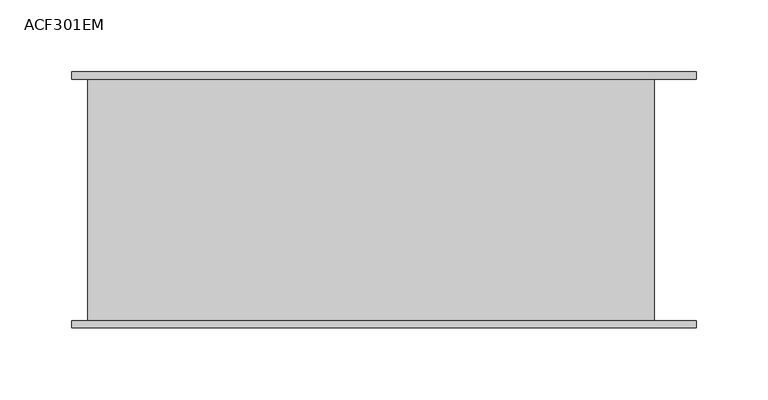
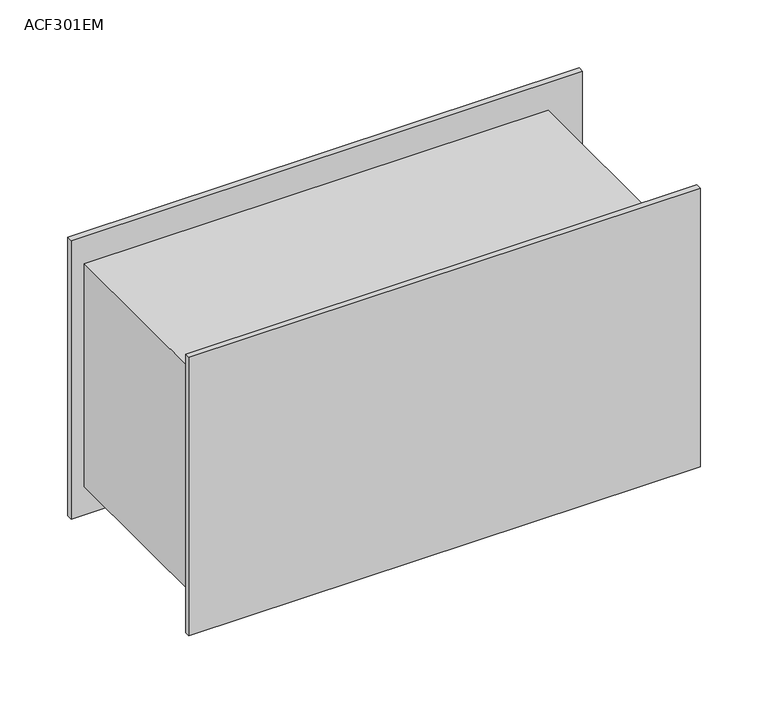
"""IFC4 building model written with IfcOpenShell, lengths in millimetres: proxy geometry, ACF301EM - Wiring_Closet_Ventillation_Unit : ACF301EM."""

import ifcopenshell
import ifcopenshell.guid

model = None  # the IFC model being written
_history = None  # IfcOwnerHistory: only IFC2X3 demands one
_inside = {}  # id of a spatial element -> (the spatial element, [elements in it])
_under = {}  # id of a project, library or spatial element -> (it, [spatial elements below it])
_declared = {}  # id of a project -> (the project, [libraries it declares])
_typed = {}  # id of a type object -> (the type object, [elements of that type])
_made_of = {}  # id of a material, layer set ... -> (it, [elements and type objects made of it])


def new_model(schema):
    """Start an empty IFC model of exactly this schema.

    Asked for "IFC4X3", IfcOpenShell would pick the latest addendum, in which some entities
    have other attributes; the version numbers below select the first issue.
    IFC2X3 requires an IfcOwnerHistory on every rooted entity: one is made here for all.
    """
    global model, _history
    if schema == "IFC4X3":
        model = ifcopenshell.file(schema_version=(4, 3, 0, 0))
    else:
        model = ifcopenshell.file(schema=schema)
    _inside.clear()
    _under.clear()
    _declared.clear()
    _typed.clear()
    _made_of.clear()
    _history = None
    if model.schema == "IFC2X3":
        org = make("IfcOrganization", Name="unknown")
        user = make(
            "IfcPersonAndOrganization",
            ThePerson=make("IfcPerson", FamilyName="unknown"),
            TheOrganization=org,
        )
        app = make(
            "IfcApplication",
            ApplicationDeveloper=org,
            Version="unknown",
            ApplicationFullName="unknown",
            ApplicationIdentifier="unknown",
        )
        _history = make(
            "IfcOwnerHistory",
            OwningUser=user,
            OwningApplication=app,
            ChangeAction="ADDED",
            CreationDate=0,
        )
    return model


def make(cls, **values):
    """One entity of the class cls with the attributes given. An attribute that is None is left unset."""
    return model.create_entity(
        cls, **{name: value for name, value in values.items() if value is not None}
    )


def rooted(cls, **values):
    """An entity with a GlobalId (a new one), such as an element, a storey or a relation."""
    return make(cls, GlobalId=ifcopenshell.guid.new(), OwnerHistory=_history, **values)


def si_unit(unit_type, name, prefix=None):
    """IfcSIUnit, for example si_unit("LENGTHUNIT", "METRE", prefix="MILLI")."""
    return make("IfcSIUnit", UnitType=unit_type, Prefix=prefix, Name=name)


def assignment(units):
    """IfcUnitAssignment: the units of a project."""
    return None if units is None else make("IfcUnitAssignment", Units=units)


def point(xyz):
    """IfcCartesianPoint."""
    return None if xyz is None else make("IfcCartesianPoint", Coordinates=xyz)


def direction(xyz):
    """IfcDirection."""
    return None if xyz is None else make("IfcDirection", DirectionRatios=xyz)


def frame(location, z_axis=None, x_axis=None):
    """IfcAxis2Placement3D, a coordinate frame: its origin and axes. An axis left out is left unset."""
    return make(
        "IfcAxis2Placement3D",
        Location=point(location),
        Axis=direction(z_axis),
        RefDirection=direction(x_axis),
    )


def frame_2d(location, x_axis=None):
    """IfcAxis2Placement2D, a coordinate frame in the plane: its origin and x axis."""
    return make(
        "IfcAxis2Placement2D", Location=point(location), RefDirection=direction(x_axis)
    )


def origin():
    """The frame at (0, 0, 0) with its axes left unset."""
    return frame((0.0, 0.0, 0.0))


def origin_with_axes():
    """The frame at (0, 0, 0) with the z axis (0, 0, 1) and the x axis (1, 0, 0) written out."""
    return frame((0.0, 0.0, 0.0), z_axis=(0.0, 0.0, 1.0), x_axis=(1.0, 0.0, 0.0))


def place(relative_to, where):
    """IfcLocalPlacement: puts the frame where relative to a parent placement (None: the world)."""
    return make(
        "IfcLocalPlacement", PlacementRelTo=relative_to, RelativePlacement=where
    )


def context(
    kind, dimensions, precision=None, world=None, true_north=None, identifier=None
):
    """IfcGeometricRepresentationContext, for example the 3D "Model" context."""
    return make(
        "IfcGeometricRepresentationContext",
        ContextIdentifier=identifier,
        ContextType=kind,
        CoordinateSpaceDimension=dimensions,
        Precision=precision,
        WorldCoordinateSystem=world,
        TrueNorth=true_north,
    )


def project(units=None, contexts=None):
    """IfcProject with its units and contexts."""
    return rooted(
        "IfcProject",
        Name="project",
        RepresentationContexts=contexts,
        UnitsInContext=assignment(units),
    )


def spatial(cls, under=None, at=None, **own):
    """A site, building, storey or space (cls), placed at a placement, below another one or the project."""
    s = rooted(cls, ObjectPlacement=at, **own)
    if under is not None:
        _under.setdefault(under.id(), (under, []))[1].append(s)
    return s


def polyline(points):
    """IfcPolyline through the points."""
    return make("IfcPolyline", Points=[point(p) for p in points])


def circle_curve(where, radius):
    """IfcCircle in the frame where."""
    return make("IfcCircle", Position=where, Radius=radius)


def trimmed(basis, trim1, trim2, sense, master):
    """IfcTrimmedCurve: the piece of a basis curve between two trims."""
    return make(
        "IfcTrimmedCurve",
        BasisCurve=basis,
        Trim1=trim1,
        Trim2=trim2,
        SenseAgreement=sense,
        MasterRepresentation=master,
    )


def segment(curve, same_sense, transition):
    """IfcCompositeCurveSegment."""
    return make(
        "IfcCompositeCurveSegment",
        Transition=transition,
        SameSense=same_sense,
        ParentCurve=curve,
    )


def composite_curve(segments, self_intersect=None):
    """IfcCompositeCurve: segments joined end to end."""
    return make("IfcCompositeCurve", Segments=segments, SelfIntersect=self_intersect)


def outline(outer, holes=None, kind="AREA"):
    """IfcArbitraryClosedProfileDef: a profile drawn as a closed curve; with holes, ...WithVoids."""
    if holes is None:
        return make("IfcArbitraryClosedProfileDef", ProfileType=kind, OuterCurve=outer)
    return make(
        "IfcArbitraryProfileDefWithVoids",
        ProfileType=kind,
        OuterCurve=outer,
        InnerCurves=holes,
    )


def extrude(swept, where, along, depth):
    """IfcExtrudedAreaSolid: the profile swept, set in the frame where, extruded along a direction by depth."""
    return make(
        "IfcExtrudedAreaSolid",
        SweptArea=swept,
        Position=where,
        ExtrudedDirection=direction(along),
        Depth=depth,
    )


def shape(context_of_items, identifier, shape_type, items):
    """IfcShapeRepresentation: the items that make up one representation, for example the "Body"."""
    return make(
        "IfcShapeRepresentation",
        ContextOfItems=context_of_items,
        RepresentationIdentifier=identifier,
        RepresentationType=shape_type,
        Items=items,
    )


def source(mapping_origin, context_of_items, identifier, shape_type, items):
    """IfcRepresentationMap: a shape defined once, which mapped items show again and again."""
    return make(
        "IfcRepresentationMap",
        MappingOrigin=mapping_origin,
        MappedRepresentation=shape(context_of_items, identifier, shape_type, items),
    )


def transform(
    local_origin,
    x_axis=None,
    y_axis=None,
    z_axis=None,
    scale=None,
    scale2=None,
    scale3=None,
    uniform=True,
):
    """IfcCartesianTransformationOperator3D, or its non-uniform kind. x_axis, y_axis, z_axis: its Axis1, 2, 3."""
    if uniform:
        return make(
            "IfcCartesianTransformationOperator3D",
            Axis1=direction(x_axis),
            Axis2=direction(y_axis),
            LocalOrigin=point(local_origin),
            Scale=scale,
            Axis3=direction(z_axis),
        )
    return make(
        "IfcCartesianTransformationOperator3DnonUniform",
        Axis1=direction(x_axis),
        Axis2=direction(y_axis),
        LocalOrigin=point(local_origin),
        Scale=scale,
        Axis3=direction(z_axis),
        Scale2=scale2,
        Scale3=scale3,
    )


def mapped(mapping_source, mapping_target):
    """IfcMappedItem: shows the shape of a source again, moved by a transform."""
    return make(
        "IfcMappedItem", MappingSource=mapping_source, MappingTarget=mapping_target
    )


def made_of(thing, what):
    """Note that an element or type object is made of a material, layer set ...; save() writes the relation."""
    if what is not None:
        _made_of.setdefault(what.id(), (what, []))[1].append(thing)
    return thing


def element(
    cls,
    number,
    at=None,
    inside=None,
    cuts=None,
    type_object=None,
    material=None,
    context=None,
    identifier="Body",
    shape_type=None,
    held_by="IfcProductDefinitionShape",
    body=None,
    shapes=None,
    **own,
):
    """One element of the class cls, such as IfcWall. Its Tag is "e" and its number.

    at: its placement. inside: the storey or other place that contains it. cuts: it is an
    opening in that element (IfcRelVoidsElement). A single representation is given by context,
    identifier, shape_type and body (its items); several are given by shapes. held_by: the class
    of the entity that holds the representations. save() writes the other relations.
    """
    e = rooted(cls, Tag="e%d" % number, ObjectPlacement=at, **own)
    if body is not None:
        shapes = [shape(context, identifier, shape_type, body)]
    if shapes is not None:
        e.Representation = make(held_by, Representations=shapes)
    if inside is not None:
        _inside.setdefault(inside.id(), (inside, []))[1].append(e)
    if cuts is not None:
        rooted(
            "IfcRelVoidsElement", RelatingBuildingElement=cuts, RelatedOpeningElement=e
        )
    if type_object is not None:
        _typed.setdefault(type_object.id(), (type_object, []))[1].append(e)
    return made_of(e, material)


def aggregate(whole, parts):
    """IfcRelAggregates: a whole, such as a stair, and the parts it consists of."""
    return rooted("IfcRelAggregates", RelatingObject=whole, RelatedObjects=parts)


def save(model, path):
    """Write the relations noted so far, then the file.

    IfcRelAggregates (storeys below a building ...), IfcRelContainedInSpatialStructure (elements
    in a storey), IfcRelDefinesByType, IfcRelAssociatesMaterial and IfcRelDeclares: one each for
    every whole, place, type object, material and project.
    """
    for whole, parts in _under.values():
        aggregate(whole, parts)
    for where, things in _inside.values():
        rooted(
            "IfcRelContainedInSpatialStructure",
            RelatedElements=things,
            RelatingStructure=where,
        )
    for kind, things in _typed.values():
        rooted("IfcRelDefinesByType", RelatedObjects=things, RelatingType=kind)
    for what, things in _made_of.values():
        rooted("IfcRelAssociatesMaterial", RelatedObjects=things, RelatingMaterial=what)
    for by, libraries in _declared.values():
        rooted("IfcRelDeclares", RelatingContext=by, RelatedDefinitions=libraries)
    model.write(path)


def acf301em_404c859c(model_context):
    return source(origin(), model_context, "Body", "SweptSolid", [
        extrude(outline(composite_curve([segment(trimmed(circle_curve(frame_2d((125.1464733, -110.0)), 80.0), [point((125.1464733, -190.0))], [point((125.1464733, -30.0))], False, "CARTESIAN"), True, "CONTINUOUS"), segment(trimmed(circle_curve(frame_2d((125.1464733, -110.0)), 80.0), [point((125.1464733, -30.0))], [point((125.1464733, -190.0))], False, "CARTESIAN"), True, "CONTINUOUS")], self_intersect=False), holes=[composite_curve([segment(trimmed(circle_curve(frame_2d((125.1464733, -110.0)), 79.0), [point((125.1464733, -189.0))], [point((125.1464733, -31.0))], True, "CARTESIAN"), True, "CONTINUOUS"), segment(trimmed(circle_curve(frame_2d((125.1464733, -110.0)), 79.0), [point((125.1464733, -31.0))], [point((125.1464733, -189.0))], True, "CARTESIAN"), True, "CONTINUOUS")], self_intersect=False)]), frame((0.0, -292.0600171, 0.0), z_axis=(0.0, 1.0, 0.0), x_axis=(0.0, 0.0, 1.0)), (0.0, 0.0, 1.0), 168.0600171),
        extrude(outline(composite_curve([segment(trimmed(circle_curve(frame_2d((125.1464733, 110.0)), 80.0), [point((125.1464733, 30.0))], [point((125.1464733, 190.0))], False, "CARTESIAN"), True, "CONTINUOUS"), segment(trimmed(circle_curve(frame_2d((125.1464733, 110.0)), 80.0), [point((125.1464733, 190.0))], [point((125.1464733, 30.0))], False, "CARTESIAN"), True, "CONTINUOUS")], self_intersect=False), holes=[composite_curve([segment(trimmed(circle_curve(frame_2d((125.1464733, 110.0)), 79.0), [point((125.1464733, 31.0))], [point((125.1464733, 189.0))], True, "CARTESIAN"), True, "CONTINUOUS"), segment(trimmed(circle_curve(frame_2d((125.1464733, 110.0)), 79.0), [point((125.1464733, 189.0))], [point((125.1464733, 31.0))], True, "CARTESIAN"), True, "CONTINUOUS")], self_intersect=False)]), frame((0.0, -292.0600171, 0.0), z_axis=(0.0, 1.0, 0.0), x_axis=(0.0, 0.0, 1.0)), (0.0, 0.0, 1.0), 168.0600171),
        extrude(outline(composite_curve([segment(trimmed(circle_curve(frame_2d((125.1464733, -110.0)), 60.0), [point((125.1464733, -170.0))], [point((125.1464733, -50.0))], False, "CARTESIAN"), True, "CONTINUOUS"), segment(trimmed(circle_curve(frame_2d((125.1464733, -110.0)), 60.0), [point((125.1464733, -50.0))], [point((125.1464733, -170.0))], False, "CARTESIAN"), True, "CONTINUOUS")], self_intersect=False), holes=[composite_curve([segment(trimmed(circle_curve(frame_2d((125.1464733, -110.0)), 59.0), [point((125.1464733, -169.0))], [point((125.1464733, -51.0))], True, "CARTESIAN"), True, "CONTINUOUS"), segment(trimmed(circle_curve(frame_2d((125.1464733, -110.0)), 59.0), [point((125.1464733, -51.0))], [point((125.1464733, -169.0))], True, "CARTESIAN"), True, "CONTINUOUS")], self_intersect=False)]), frame((0.0, -292.0600171, 0.0), z_axis=(0.0, 1.0, 0.0), x_axis=(0.0, 0.0, 1.0)), (0.0, 0.0, 1.0), 168.0600171),
        extrude(outline(composite_curve([segment(trimmed(circle_curve(frame_2d((125.1464733, -110.0)), 25.0), [point((125.1464733, -135.0))], [point((125.1464733, -85.0))], False, "CARTESIAN"), True, "CONTINUOUS"), segment(trimmed(circle_curve(frame_2d((125.1464733, -110.0)), 25.0), [point((125.1464733, -85.0))], [point((125.1464733, -135.0))], False, "CARTESIAN"), True, "CONTINUOUS")], self_intersect=False), holes=[composite_curve([segment(trimmed(circle_curve(frame_2d((125.1464733, -110.0)), 24.0), [point((125.1464733, -134.0))], [point((125.1464733, -86.0))], True, "CARTESIAN"), True, "CONTINUOUS"), segment(trimmed(circle_curve(frame_2d((125.1464733, -110.0)), 24.0), [point((125.1464733, -86.0))], [point((125.1464733, -134.0))], True, "CARTESIAN"), True, "CONTINUOUS")], self_intersect=False)]), frame((0.0, -292.0600171, 0.0), z_axis=(0.0, 1.0, 0.0), x_axis=(0.0, 0.0, 1.0)), (0.0, 0.0, 1.0), 168.0600171),
        extrude(outline(composite_curve([segment(trimmed(circle_curve(frame_2d((125.1464733, 110.0)), 60.0), [point((125.1464733, 50.0))], [point((125.1464733, 170.0))], False, "CARTESIAN"), True, "CONTINUOUS"), segment(trimmed(circle_curve(frame_2d((125.1464733, 110.0)), 60.0), [point((125.1464733, 170.0))], [point((125.1464733, 50.0))], False, "CARTESIAN"), True, "CONTINUOUS")], self_intersect=False), holes=[composite_curve([segment(trimmed(circle_curve(frame_2d((125.1464733, 110.0)), 59.0), [point((125.1464733, 51.0))], [point((125.1464733, 169.0))], True, "CARTESIAN"), True, "CONTINUOUS"), segment(trimmed(circle_curve(frame_2d((125.1464733, 110.0)), 59.0), [point((125.1464733, 169.0))], [point((125.1464733, 51.0))], True, "CARTESIAN"), True, "CONTINUOUS")], self_intersect=False)]), frame((0.0, -292.0600171, 0.0), z_axis=(0.0, 1.0, 0.0), x_axis=(0.0, 0.0, 1.0)), (0.0, 0.0, 1.0), 168.0600171),
        extrude(outline(composite_curve([segment(trimmed(circle_curve(frame_2d((125.1464733, 110.0)), 25.0), [point((125.1464733, 85.0))], [point((125.1464733, 135.0))], False, "CARTESIAN"), True, "CONTINUOUS"), segment(trimmed(circle_curve(frame_2d((125.1464733, 110.0)), 25.0), [point((125.1464733, 135.0))], [point((125.1464733, 85.0))], False, "CARTESIAN"), True, "CONTINUOUS")], self_intersect=False), holes=[composite_curve([segment(trimmed(circle_curve(frame_2d((125.1464733, 110.0)), 24.0), [point((125.1464733, 86.0))], [point((125.1464733, 134.0))], True, "CARTESIAN"), True, "CONTINUOUS"), segment(trimmed(circle_curve(frame_2d((125.1464733, 110.0)), 24.0), [point((125.1464733, 134.0))], [point((125.1464733, 86.0))], True, "CARTESIAN"), True, "CONTINUOUS")], self_intersect=False)]), frame((0.0, -292.0600171, 0.0), z_axis=(0.0, 1.0, 0.0), x_axis=(0.0, 0.0, 1.0)), (0.0, 0.0, 1.0), 168.0600171),
        extrude(outline(polyline([(197.0, -124.0), (197.0, -292.0600171), (-197.0, -292.0600171), (-197.0, -124.0), (197.0, -124.0)])), frame((0.0, 0.0, 24.9324414), z_axis=(0.0, 0.0, 1.0), x_axis=(1.0, 0.0, 0.0)), (0.0, 0.0, 1.0), 200.4280638),
        extrude(outline(polyline([(226.0, -119.0300086), (226.0, -124.0), (-208.0, -124.0), (-208.0, -119.0300086), (226.0, -119.0300086)])), origin_with_axes(), (0.0, 0.0, 1.0), 250.0),
        extrude(outline(polyline([(226.0, -297.0300086), (-208.0, -297.0300086), (-208.0, -292.0600171), (226.0, -292.0600171), (226.0, -297.0300086)])), origin_with_axes(), (0.0, 0.0, 1.0), 250.0),
    ])


if __name__ == "__main__":
    model = new_model("IFC4")
    model_context = context("Model", 3, world=origin())
    ifc_project = project(units=[si_unit("LENGTHUNIT", "METRE", prefix="MILLI")], contexts=[model_context])
    site = spatial("IfcSite", under=ifc_project)
    building = spatial("IfcBuilding", under=site)
    placement = place(None, origin())
    acf301em_shape = acf301em_404c859c(model_context)
    element("IfcBuildingElementProxy", 1, Name="ACF301EM - Wiring_Closet_Ventillation_Unit : ACF301EM", ObjectType="ACF301EM - Wiring_Closet_Ventillation_Unit : ACF301EM", at=placement, inside=building, context=model_context, shape_type="MappedRepresentation", body=[
        mapped(acf301em_shape, transform((0.0, 0.0, 0.0), x_axis=(1.0, 0.0, 0.0), y_axis=(0.0, 1.0, 0.0), z_axis=(0.0, 0.0, 1.0))),
    ])
    save(model, "model.ifc")
